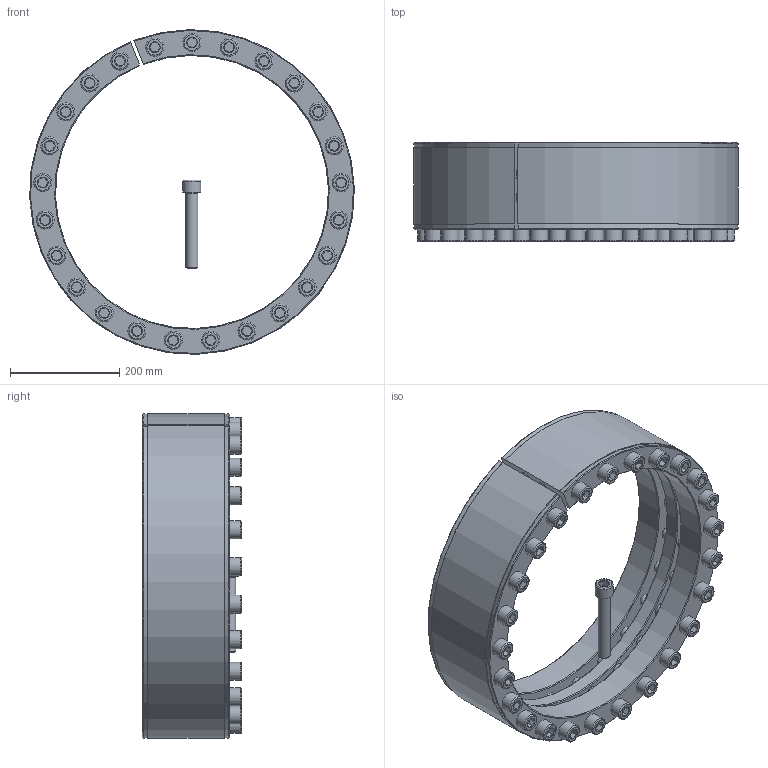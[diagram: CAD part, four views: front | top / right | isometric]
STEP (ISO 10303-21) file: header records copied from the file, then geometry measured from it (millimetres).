
FILE_DESCRIPTION( ( 'Unknown' ), '1' );
FILE_NAME( 'C:/Users/Frank/Eigene Daten/CAD/Solid Edge/KBK Karpstein/KBS Layout Baureihen/KBS 18/KBS 18 - 500 x 595.stp', 'Unknown', ( 'Unknown' ), ( 'Unknown' ), 'XStep 1.0', 'Unknown', ' ' );
FILE_SCHEMA( ( 'automotive_design' ) );
Length unit declared in the file: millimetre
Products named in the file (3): Assem1; ISO EN DIN 4762 M22x140; KBS 18 - 500 x 595
Bounding box: 594.74 x 182 x 594.83 mm (x, y, z)
Volume: 21145712.9 mm3; surface area: 2625491.3 mm2
Topology: 28 solids, 28 shells, 852 faces, 1786 edges, 1094 vertices
Faces by surface type: plane 332, cylinder 262, cone 206, torus 52
Full cylindrical faces by diameter (mm): 18 x26, 19.294 x50, 22 x52, 24 x100, 33 x26
Entity records: 4402 total; most frequent: CARTESIAN_POINT 773, DIRECTION 724, ORIENTED_EDGE 514, EDGE_LOOP 362, AXIS2_PLACEMENT_3D 344, EDGE_CURVE 257, VERTEX_POINT 221, FACE_OUTER_BOUND 207
